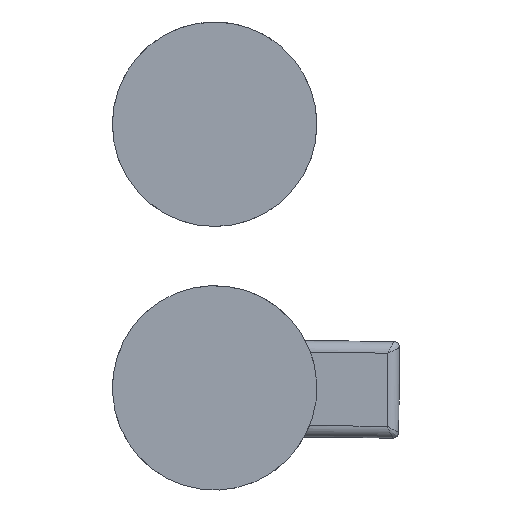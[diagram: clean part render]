
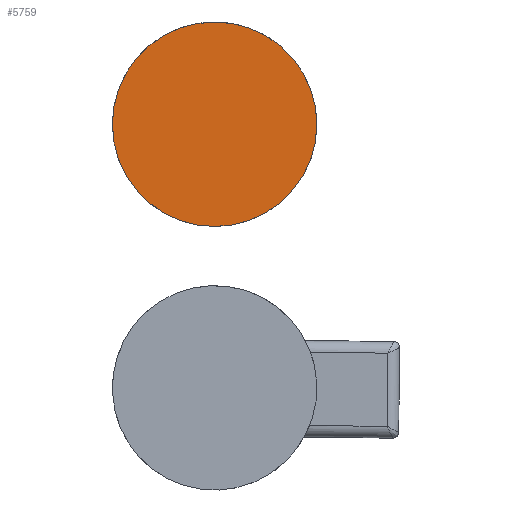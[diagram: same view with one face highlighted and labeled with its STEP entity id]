
A CAD part, left-side view. The second image highlights one B-rep face of the part: STEP entity #5759.
In plain terms, the highlighted planar face has unit normal (-1, 0, 0).
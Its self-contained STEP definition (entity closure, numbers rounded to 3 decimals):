
#392 = DIRECTION ( 'NONE',  ( 1., 0., 0. ) ) ;
#1387 = VERTEX_POINT ( 'NONE', #2634 ) ;
#2269 = EDGE_LOOP ( 'NONE', ( #5394, #8303 ) ) ;
#2634 = CARTESIAN_POINT ( 'NONE',  ( 71.836, 42.949, 64.514 ) ) ;
#3443 = AXIS2_PLACEMENT_3D ( 'NONE', #4281, #12069, #15854 ) ;
#3886 = EDGE_CURVE ( 'NONE', #5024, #1387, #15877, .T. ) ;
#4281 = CARTESIAN_POINT ( 'NONE',  ( 71.836, 42.949, 29.614 ) ) ;
#5024 = VERTEX_POINT ( 'NONE', #13933 ) ;
#5394 = ORIENTED_EDGE ( 'NONE', *, *, #14145, .F. ) ;
#5759 = ADVANCED_FACE ( 'NONE', ( #5899 ), #10795, .F. ) ;
#5899 = FACE_OUTER_BOUND ( 'NONE', #2269, .T. ) ;
#6663 = AXIS2_PLACEMENT_3D ( 'NONE', #10960, #14598, #13368 ) ;
#6700 = DIRECTION ( 'NONE',  ( 0., 0., 1. ) ) ;
#8303 = ORIENTED_EDGE ( 'NONE', *, *, #3886, .F. ) ;
#10795 = PLANE ( 'NONE',  #6663 ) ;
#10960 = CARTESIAN_POINT ( 'NONE',  ( 71.836, 76.349, 29.614 ) ) ;
#11754 = CARTESIAN_POINT ( 'NONE',  ( 71.836, 42.949, 29.614 ) ) ;
#12069 = DIRECTION ( 'NONE',  ( 1., 0., 0. ) ) ;
#13368 = DIRECTION ( 'NONE',  ( 0., 0., -1. ) ) ;
#13933 = CARTESIAN_POINT ( 'NONE',  ( 71.836, 42.949, -5.286 ) ) ;
#14108 = AXIS2_PLACEMENT_3D ( 'NONE', #11754, #392, #6700 ) ;
#14145 = EDGE_CURVE ( 'NONE', #1387, #5024, #14629, .T. ) ;
#14598 = DIRECTION ( 'NONE',  ( 1., 0., 0. ) ) ;
#14629 = CIRCLE ( 'NONE', #14108, 34.9 ) ;
#15854 = DIRECTION ( 'NONE',  ( 0., 0., 1. ) ) ;
#15877 = CIRCLE ( 'NONE', #3443, 34.9 ) ;
